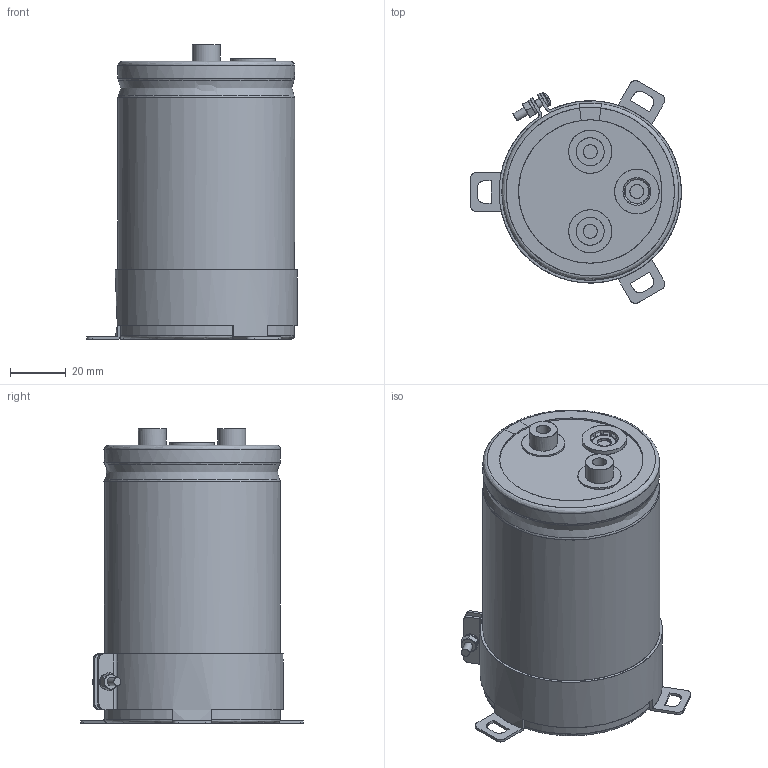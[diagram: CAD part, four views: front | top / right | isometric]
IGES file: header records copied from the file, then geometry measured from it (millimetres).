
Start section: JAMA-IS VERSION  1.0
Bounding box: 75.75 x 80.01 x 106 mm (x, y, z)
Surface area: 80990.4 mm2 (no closed solid volume)
Topology: 0 solids, 0 shells, 259 faces, 4436 edges, 4409 vertices
Faces by surface type: bspline 259
